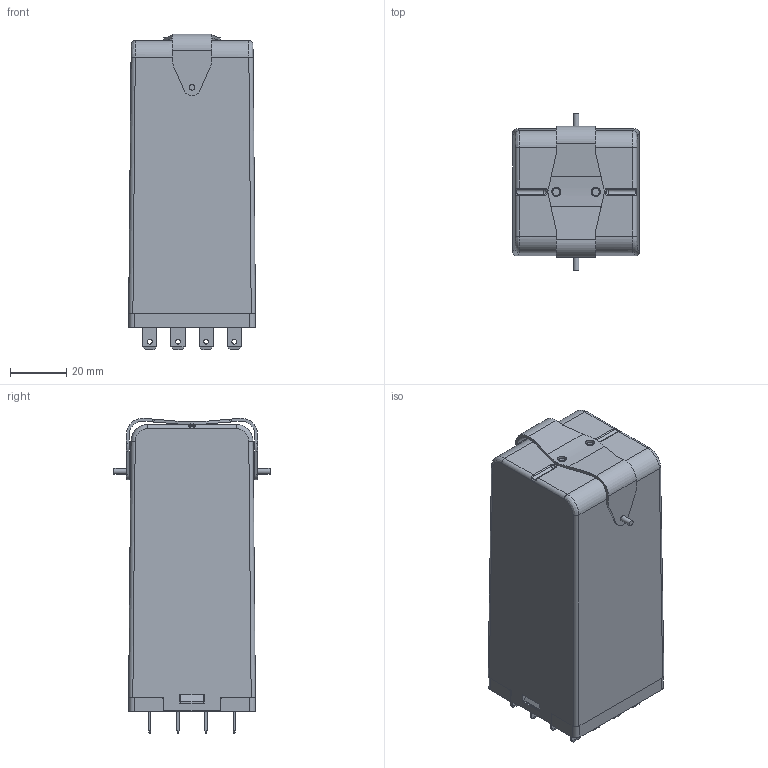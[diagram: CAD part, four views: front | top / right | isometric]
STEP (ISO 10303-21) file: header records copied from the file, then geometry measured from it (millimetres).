
FILE_DESCRIPTION((''),'2;1');
FILE_NAME('C:\Documents and Settings\Arnoud\Bureaublad\B400-B.stp','2009-03-04T15:35:41',('Arnoud'),(''),'Autodesk Inventor 2009','Autodesk Inventor 2009','');
FILE_SCHEMA(('AUTOMOTIVE_DESIGN { 1 0 10303 214 1 1 1 1 }'));
Length unit declared in the file: millimetre
Products named in the file (1): B400-B
Bounding box: 45.04 x 55.4 x 111.88 mm (x, y, z)
Volume: 42642.7 mm3; surface area: 50656.8 mm2
Topology: 1 solids, 2 shells, 957 faces, 2766 edges, 1723 vertices
Faces by surface type: plane 768, cylinder 169, bspline 14, cone 2, torus 2, sphere 2
Full cylindrical faces by diameter (mm): 1.6 x16, 1.7 x16, 2 x4, 2.625 x2, 3.1 x4, 3.15 x4, 3.2 x2, 3.5 x4, 7 x2
Entity records: 33948 total; most frequent: CARTESIAN_POINT 7642, ORIENTED_EDGE 5406, DIRECTION 4943, EDGE_CURVE 2703, VECTOR 2327, LINE 2327, VERTEX_POINT 1717, AXIS2_PLACEMENT_3D 1308
